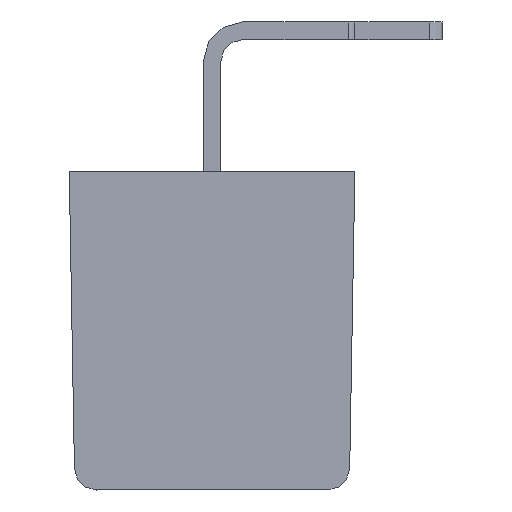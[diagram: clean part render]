
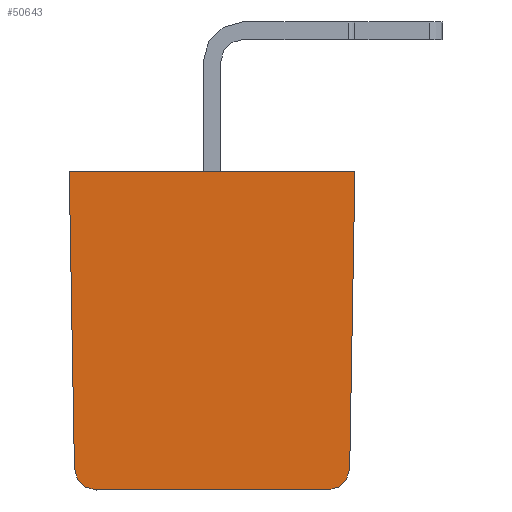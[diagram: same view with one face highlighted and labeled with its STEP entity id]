
A CAD part, left-side view. The second image highlights one B-rep face of the part: STEP entity #50643.
In plain terms, the highlighted planar face has unit normal (-1, 0, 0).
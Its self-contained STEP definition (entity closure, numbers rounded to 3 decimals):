
#19900=CARTESIAN_POINT('',(0.,11.764,-13.501));
#19901=DIRECTION('',(-1.,0.,0.));
#19902=DIRECTION('',(0.,1.,-0.017));
#19903=AXIS2_PLACEMENT_3D('',#19900,#19901,#19902);
#19905=DIRECTION('',(0.,-0.017,-1.));
#19906=VECTOR('',#19905,13.52);
#19907=CARTESIAN_POINT('',(0.,13.,-0.001));
#19908=LINE('',#19907,#19906);
#19909=DIRECTION('',(0.,1.,0.));
#19910=VECTOR('',#19909,13.);
#19911=CARTESIAN_POINT('',(0.,0.,-0.001));
#19912=LINE('',#19911,#19910);
#19913=DIRECTION('',(0.,-0.017,1.));
#19914=VECTOR('',#19913,13.52);
#19915=CARTESIAN_POINT('',(0.,0.236,-13.519));
#19916=LINE('',#19915,#19914);
#19917=CARTESIAN_POINT('',(0.,1.236,-13.501));
#19918=DIRECTION('',(-1.,0.,0.));
#19919=DIRECTION('',(0.,0.,-1.));
#19920=AXIS2_PLACEMENT_3D('',#19917,#19918,#19919);
#19922=DIRECTION('',(0.,-1.,0.));
#19923=VECTOR('',#19922,10.528);
#19924=CARTESIAN_POINT('',(0.,11.764,-14.501));
#19925=LINE('',#19924,#19923);
#20001=CARTESIAN_POINT('',(0.,0.,-0.001));
#20003=VERTEX_POINT('',#20001);
#20004=CARTESIAN_POINT('',(0.,13.,-0.001));
#20005=VERTEX_POINT('',#20004);
#20012=CARTESIAN_POINT('',(0.,0.236,-13.519));
#20014=VERTEX_POINT('',#20012);
#20015=CARTESIAN_POINT('',(0.,1.236,-14.501));
#20017=VERTEX_POINT('',#20015);
#20020=CARTESIAN_POINT('',(0.,11.764,-14.501));
#20022=VERTEX_POINT('',#20020);
#20023=CARTESIAN_POINT('',(0.,12.764,-13.519));
#20025=VERTEX_POINT('',#20023);
#50626=CARTESIAN_POINT('',(0.,6.5,-0.001));
#50627=DIRECTION('',(-1.,0.,0.));
#50628=DIRECTION('',(0.,1.,0.));
#50629=AXIS2_PLACEMENT_3D('',#50626,#50627,#50628);
#50630=PLANE('',#50629);
#50632=ORIENTED_EDGE('',*,*,#50631,.F.);
#50633=ORIENTED_EDGE('',*,*,#50619,.F.);
#50634=ORIENTED_EDGE('',*,*,#23813,.F.);
#50636=ORIENTED_EDGE('',*,*,#50635,.F.);
#50638=ORIENTED_EDGE('',*,*,#50637,.F.);
#50640=ORIENTED_EDGE('',*,*,#50639,.F.);
#50641=EDGE_LOOP('',(#50632,#50633,#50634,#50636,#50638,#50640));
#50642=FACE_OUTER_BOUND('',#50641,.F.);
#50643=ADVANCED_FACE('',(#50642),#50630,.T.);
#19904=CIRCLE('',#19903,1.);
#19921=CIRCLE('',#19920,1.);
#23813=EDGE_CURVE('',#20003,#20005,#19912,.T.);
#50619=EDGE_CURVE('',#20005,#20025,#19908,.T.);
#50631=EDGE_CURVE('',#20025,#20022,#19904,.T.);
#50635=EDGE_CURVE('',#20014,#20003,#19916,.T.);
#50637=EDGE_CURVE('',#20017,#20014,#19921,.T.);
#50639=EDGE_CURVE('',#20022,#20017,#19925,.T.);
